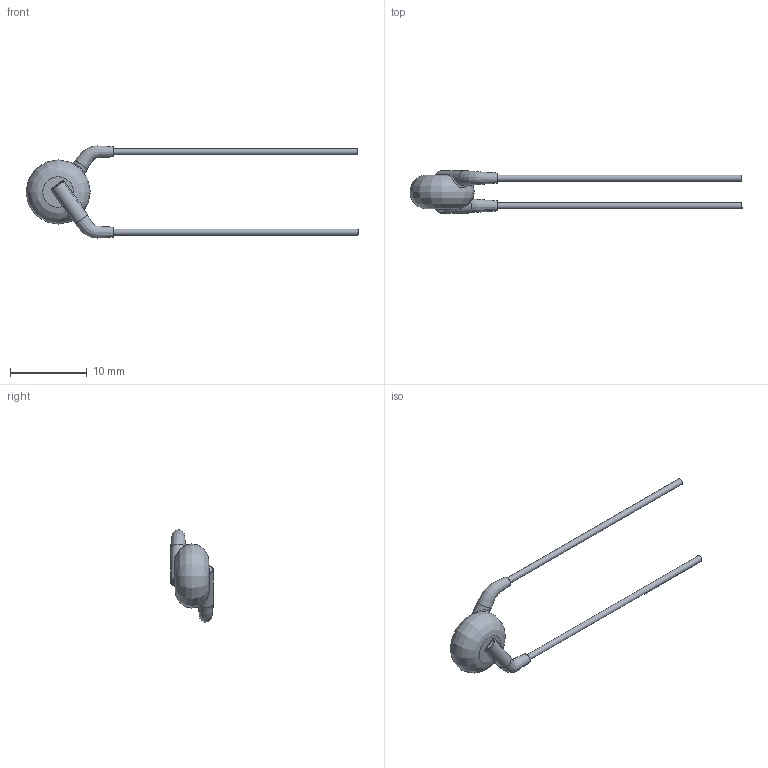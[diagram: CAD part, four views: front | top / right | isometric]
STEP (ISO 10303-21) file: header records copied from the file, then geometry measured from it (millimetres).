
FILE_DESCRIPTION(/* description */ (''),/* implementation_level */ '2;1');
FILE_NAME(/* name */ 'I:\Marketing\M6t1\3D-Models\Zchng-Werk-3\Upload for homepage\Ceramite\X7R\440LQ68-R\440LQ68-R.stp',/* time_stamp */ '2016-11-10T13:42:33+01:00',/* author */ ('sheinrich'),/* organization */ (''),/* preprocessor_version */ 'ST-DEVELOPER v16.1',/* originating_system */ 'Autodesk Inventor 2016',/* authorisation */ '');
FILE_SCHEMA (('AUTOMOTIVE_DESIGN { 1 0 10303 214 3 1 1 }'));
Length unit declared in the file: millimetre
Products named in the file (1): 440LQ68-R
Bounding box: 43.4 x 5.6 x 12.03 mm (x, y, z)
Volume: 264.9 mm3; surface area: 404.4 mm2
Topology: 1 solids, 1 shells, 37 faces, 81 edges, 44 vertices
Faces by surface type: bspline 13, cylinder 10, plane 8, torus 6
Full cylindrical faces by diameter (mm): 0.81 x2, 2 x2
Entity records: 1856 total; most frequent: CARTESIAN_POINT 1092, ORIENTED_EDGE 142, DIRECTION 130, EDGE_CURVE 71, AXIS2_PLACEMENT_3D 59, EDGE_LOOP 43, VERTEX_POINT 42, STYLED_ITEM 38
